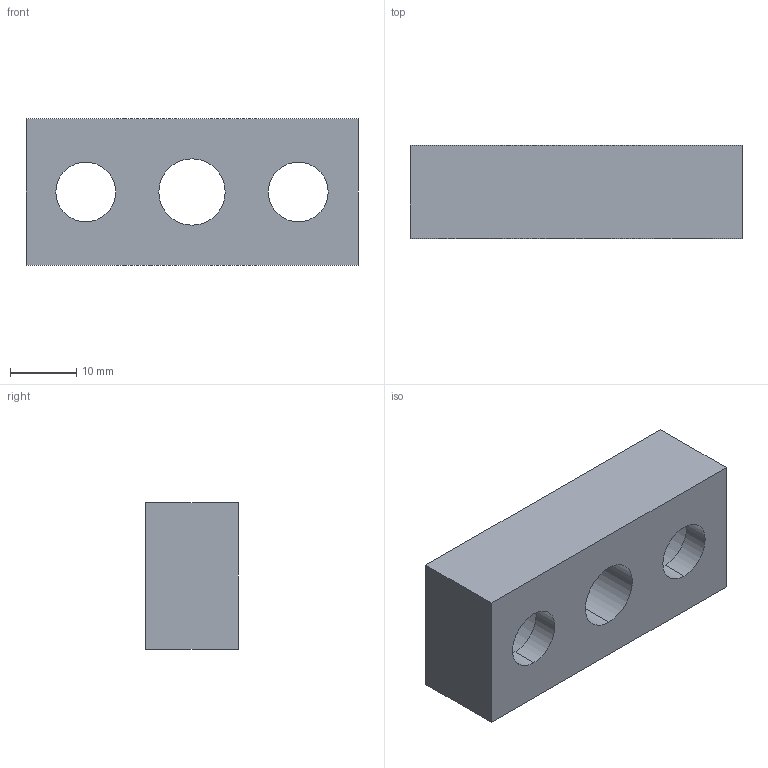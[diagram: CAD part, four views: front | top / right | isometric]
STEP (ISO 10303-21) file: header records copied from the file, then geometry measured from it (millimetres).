
FILE_DESCRIPTION(('CATIA V5 STEP Exchange'),'2;1');
FILE_NAME('C:\Users\Raffaele\Desktop\3D X SITO CF\761\GSB_OILLESS_M31705014050\STEP-2.03\761-014050.stp','2019-07-05T06:08:01+00:00',('none'),('none'),'CATIA Version 5 Release 20 GA (IN-10)','CATIA V5 STEP AP203','none');
FILE_SCHEMA(('CONFIG_CONTROL_DESIGN'));
Length unit declared in the file: millimetre
Products named in the file (1): 761-014050
Bounding box: 50 x 14 x 22 mm (x, y, z)
Volume: 9668.2 mm3; surface area: 5507.2 mm2
Topology: 1 solids, 1 shells, 21 faces, 72 edges, 56 vertices
Faces by surface type: cylinder 12, plane 9
Entity records: 978 total; most frequent: CARTESIAN_POINT 300, ORIENTED_EDGE 144, DIRECTION 102, EDGE_CURVE 72, AXIS2_PLACEMENT_3D 58, VERTEX_POINT 56, CIRCLE 36, EDGE_LOOP 30
